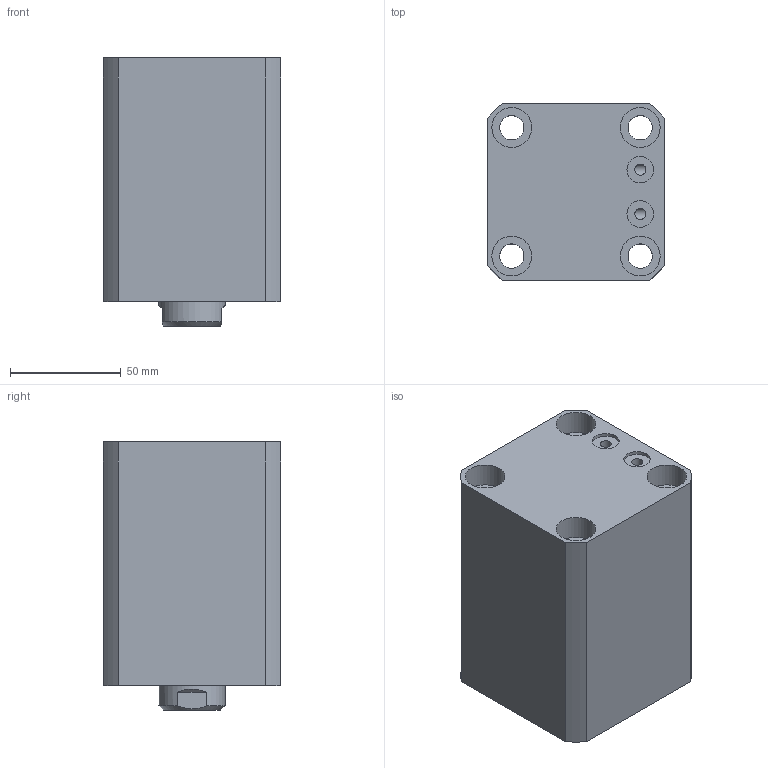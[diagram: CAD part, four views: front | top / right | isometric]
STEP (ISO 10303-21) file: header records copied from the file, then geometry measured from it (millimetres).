
FILE_DESCRIPTION(/* description */ (''),/* implementation_level */ '2;1');
FILE_NAME(/* name */ 'CHTB-SDMB50-50N.stp',/* time_stamp */ '2022-04-29T18:24:20+08:00',/* author */ (''),/* organization */ (''),/* preprocessor_version */ 'ST-DEVELOPER v16.7',/* originating_system */ 'SIEMENS PLM Software NX 12.0',/* authorisation */ '');
FILE_SCHEMA (('AUTOMOTIVE_DESIGN { 1 0 10303 214 3 1 1 1 }'));
Length unit declared in the file: millimetre
Products named in the file (1): CHTB-SDMB50-50N
Bounding box: 80 x 80 x 121 mm (x, y, z)
Volume: 573899.9 mm3; surface area: 113653.9 mm2
Topology: 5 solids, 5 shells, 495 faces, 1325 edges, 892 vertices
Faces by surface type: plane 304, extrusion 92, cylinder 53, bspline 20, cone 15, torus 11
Full cylindrical faces by diameter (mm): 4 x2, 5 x4, 11 x4, 12 x2, 18 x8, 19 x1, 30 x2, 39 x1, 44 x2, 46 x1, 50 x5, 55 x8, 59 x1
Entity records: 26330 total; most frequent: CARTESIAN_POINT 12467, ORIENTED_EDGE 2494, DIRECTION 1879, EDGE_CURVE 1247, VECTOR 909, VERTEX_POINT 881, LINE 817, EDGE_LOOP 613
